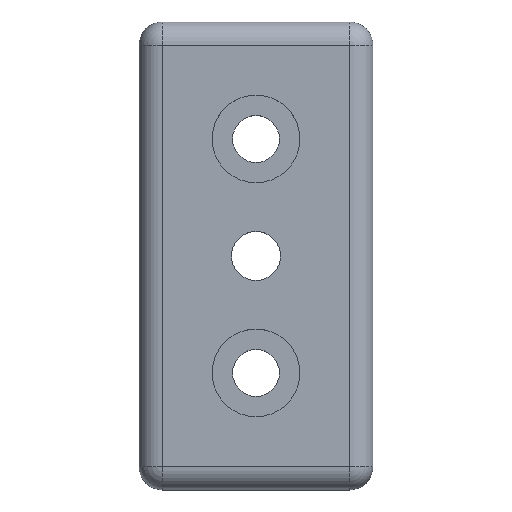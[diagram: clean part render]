
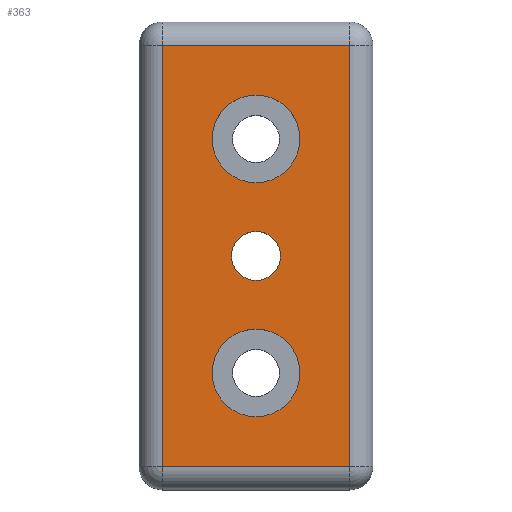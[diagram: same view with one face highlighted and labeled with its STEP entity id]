
A CAD part, top view. The second image highlights one B-rep face of the part: STEP entity #363.
In plain terms, the highlighted planar face has unit normal (0, 0, 1).
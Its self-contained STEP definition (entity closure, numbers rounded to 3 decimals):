
#32=CIRCLE('',#410,4.188);
#33=CIRCLE('',#411,7.5);
#34=CIRCLE('',#412,7.5);
#95=ORIENTED_EDGE('',*,*,#179,.T.);
#96=ORIENTED_EDGE('',*,*,#180,.T.);
#97=ORIENTED_EDGE('',*,*,#181,.T.);
#98=ORIENTED_EDGE('',*,*,#182,.T.);
#99=ORIENTED_EDGE('',*,*,#183,.T.);
#100=ORIENTED_EDGE('',*,*,#184,.T.);
#101=ORIENTED_EDGE('',*,*,#185,.T.);
#179=EDGE_CURVE('',#217,#217,#32,.T.);
#180=EDGE_CURVE('',#218,#218,#33,.T.);
#181=EDGE_CURVE('',#219,#219,#34,.T.);
#182=EDGE_CURVE('',#220,#221,#247,.T.);
#183=EDGE_CURVE('',#221,#222,#248,.T.);
#184=EDGE_CURVE('',#222,#223,#249,.T.);
#185=EDGE_CURVE('',#223,#220,#250,.T.);
#217=VERTEX_POINT('',#619);
#218=VERTEX_POINT('',#621);
#219=VERTEX_POINT('',#623);
#220=VERTEX_POINT('',#625);
#221=VERTEX_POINT('',#626);
#222=VERTEX_POINT('',#628);
#223=VERTEX_POINT('',#630);
#247=LINE('',#624,#267);
#248=LINE('',#627,#268);
#249=LINE('',#629,#269);
#250=LINE('',#631,#270);
#267=VECTOR('',#502,1000.);
#268=VECTOR('',#503,1000.);
#269=VECTOR('',#504,1000.);
#270=VECTOR('',#505,1000.);
#279=EDGE_LOOP('',(#95));
#280=EDGE_LOOP('',(#96));
#281=EDGE_LOOP('',(#97));
#282=EDGE_LOOP('',(#98,#99,#100,#101));
#317=FACE_BOUND('',#279,.T.);
#318=FACE_BOUND('',#280,.T.);
#319=FACE_BOUND('',#281,.T.);
#320=FACE_BOUND('',#282,.T.);
#351=PLANE('',#409);
#363=ADVANCED_FACE('',(#317,#318,#319,#320),#351,.T.);
#409=AXIS2_PLACEMENT_3D('',#617,#494,#495);
#410=AXIS2_PLACEMENT_3D('',#618,#496,#497);
#411=AXIS2_PLACEMENT_3D('',#620,#498,#499);
#412=AXIS2_PLACEMENT_3D('',#622,#500,#501);
#494=DIRECTION('',(0.,0.,1.));
#495=DIRECTION('',(1.,0.,0.));
#496=DIRECTION('',(0.,0.,-1.));
#497=DIRECTION('',(-1.,0.,0.));
#498=DIRECTION('',(0.,0.,-1.));
#499=DIRECTION('',(-1.,0.,0.));
#500=DIRECTION('',(0.,0.,-1.));
#501=DIRECTION('',(-1.,0.,0.));
#502=DIRECTION('',(0.,1.,0.));
#503=DIRECTION('',(-1.,0.,0.));
#504=DIRECTION('',(0.,-1.,0.));
#505=DIRECTION('',(1.,0.,0.));
#617=CARTESIAN_POINT('',(-16.,-36.,16.));
#618=CARTESIAN_POINT('',(0.,0.,16.));
#619=CARTESIAN_POINT('',(-4.188,0.,16.));
#620=CARTESIAN_POINT('',(0.,-20.,16.));
#621=CARTESIAN_POINT('',(-7.5,-20.,16.));
#622=CARTESIAN_POINT('',(0.,20.,16.));
#623=CARTESIAN_POINT('',(-7.5,20.,16.));
#624=CARTESIAN_POINT('',(16.,36.,16.));
#625=CARTESIAN_POINT('',(16.,-36.,16.));
#626=CARTESIAN_POINT('',(16.,36.,16.));
#627=CARTESIAN_POINT('',(-16.,36.,16.));
#628=CARTESIAN_POINT('',(-16.,36.,16.));
#629=CARTESIAN_POINT('',(-16.,-36.,16.));
#630=CARTESIAN_POINT('',(-16.,-36.,16.));
#631=CARTESIAN_POINT('',(16.,-36.,16.));
